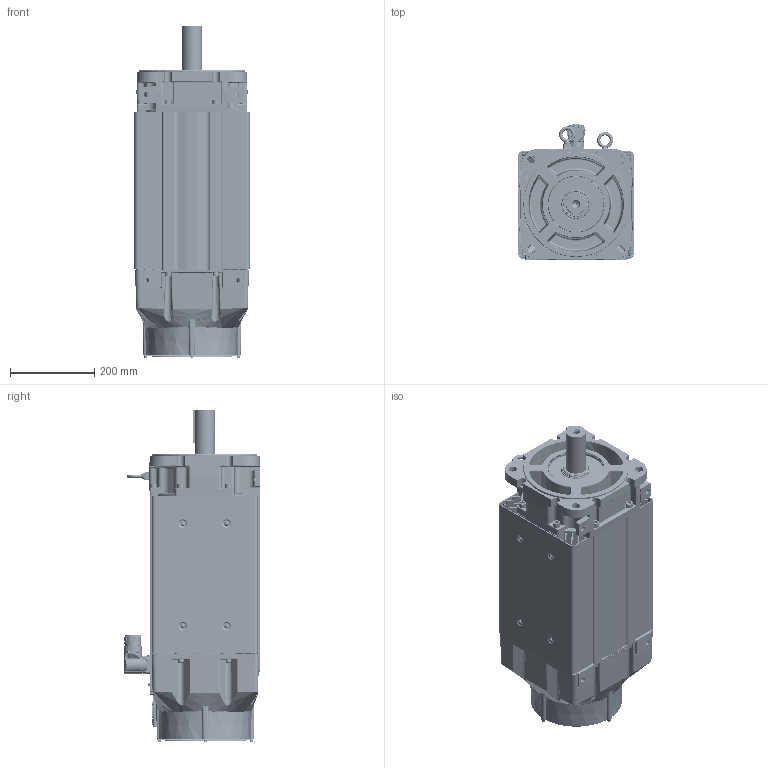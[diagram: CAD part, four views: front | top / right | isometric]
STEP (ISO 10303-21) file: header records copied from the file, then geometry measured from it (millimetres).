
FILE_DESCRIPTION((''),'2;1');
FILE_NAME('VPC-B3003A-QJ14FX_ASM','2016-09-27T',('SRGaddam'),('Rockwell Automation'),'PRO/ENGINEER BY PARAMETRIC TECHNOLOGY CORPORATION, 2012480','PRO/ENGINEER BY PARAMETRIC TECHNOLOGY CORPORATION, 2012480','');
FILE_SCHEMA(('CONFIG_CONTROL_DESIGN'));
Products named in the file (38): 10001404634_AF0; 10001404629_AF6; 10001404635_ASM; 10001585735; 10001441962; 10001737030; 10001448103; 10001587021; 10001405269_AF71; 10001405240_AF78; 10001405369_ASM; 10001946256; 10001956852; 10001989665; 10001713549_ASM; M4X7X14-SOCHD-CAP-SCR; 10001978970; 10001336508; 10001587431; CH4X063; 10001299929; 10001284567; 10000172464; 10001445961; 221404-Q12; 10000231113; 10002279234; 10001443420_ASM; 10001609981; 0002-5004; 10001586887; 10001439772; 0011-2084; 142408_740; PRT0002_740; 142408-1_740_ASM; M740_ASM; VPC-B3003A-QJ14FX_ASM
Assembly tree (73 placements, depth 4):
  VPC-B3003A-QJ14FX_ASM
    10001404635_ASM
      10001404634_AF0
      10001404629_AF6
    10001585735  x8
    10001441962
    10001737030
    10001448103  x2
    10001587021  x8
    10001405369_ASM
      10001405269_AF71
      10001405240_AF78
    10001443420_ASM
      10001946256
      10001713549_ASM
        10001956852
        10001989665
      M4X7X14-SOCHD-CAP-SCR  x4
      10001978970
      10001336508
      10001587431
      CH4X063  x2
      10001299929
      10001284567
      10000172464  x4
      10001445961
      221404-Q12  x5
      10000231113
      10002279234
    10001609981
    0002-5004  x2
    10001586887  x6
    10001439772
    0011-2084
    M740_ASM
      142408-1_740_ASM
        142408_740
        PRT0002_740
      221404-Q12  x4
Bounding box: 275.91 x 324.15 x 787.35 mm (x, y, z)
Volume: 12727428.1 mm3; surface area: 3161454 mm2
Topology: 79 solids, 80 shells, 7226 faces, 17062 edges, 10219 vertices
Faces by surface type: cylinder 2218, plane 2045, bspline 1177, cone 1054, torus 593, sphere 134, extrusion 5
Entity records: 206990 total; most frequent: CARTESIAN_POINT 89843, ORIENTED_EDGE 25106, DIRECTION 23080, EDGE_CURVE 12553, AXIS2_PLACEMENT_3D 8866, VERTEX_POINT 7725, EDGE_LOOP 5688, VECTOR 5348
